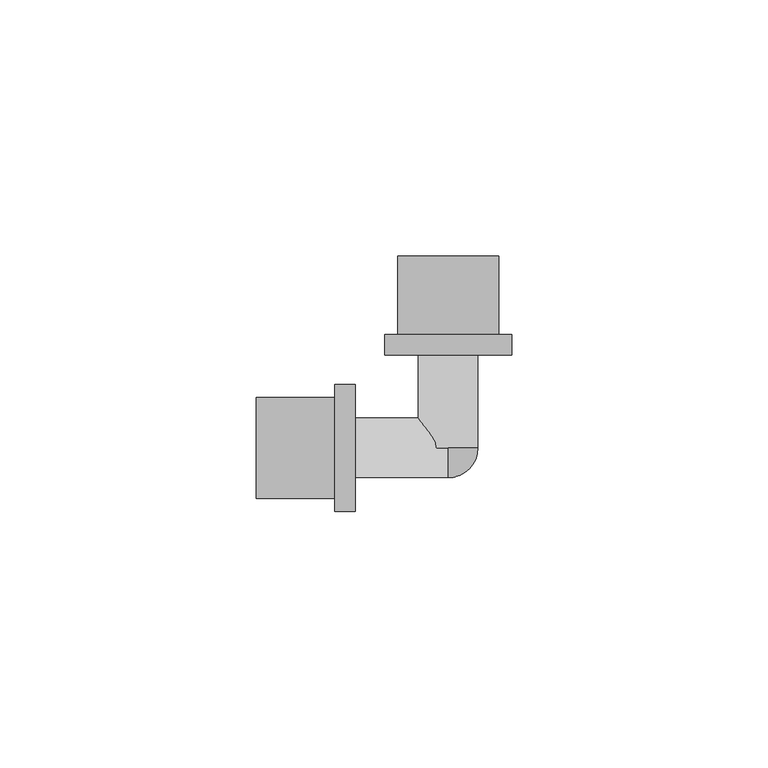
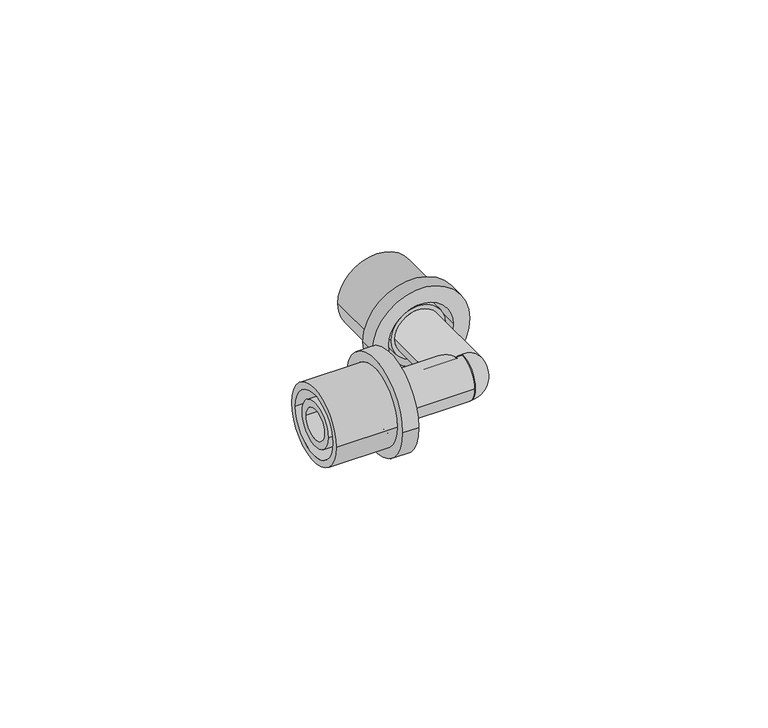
"""IFC4 building model written with IfcOpenShell, lengths in millimetres: pipe fitting geometry, FASTLOC_Corner EX+ : FSL C EX+ AT."""

from ifc_helpers import new_model, si_unit, point, frame, origin, place, context, project, spatial, polyline, circle_curve, ellipse_curve, trimmed, source, transform, mapped, element, save
from ifc_brep_helpers import plane_surface, cylinder_surface, revolved_surface, advanced_brep


def pipe_fitting_9dc6dfba(model_context):
    return source(origin(), model_context, "Body", "AdvancedBrep", [
        advanced_brep(
        [(-12.35, 22.1, 0.0), (12.35, 22.1, 0.0), (12.35, 18.1, 0.0), (-12.35, 18.1, 0.0), (-9.85, 37.4, 0.0), (9.85, 37.4, 0.0), (9.85, 22.1, 0.0), (-9.85, 22.1, 0.0), (-8.15, 18.1, 0.0), (8.15, 18.1, 0.0), (8.15, 37.4, 0.0), (-8.15, 37.4, 0.0)],
        [
            (0, 1, circle_curve(frame((0.0, 22.1, 0.0), z_axis=(0.0, -1.0, 0.0), x_axis=(1.0, 0.0, 0.0)), 12.35)),
            (1, 2),
            (2, 3, circle_curve(frame((0.0, 18.1, 0.0), z_axis=(0.0, 1.0, 0.0), x_axis=(1.0, 0.0, 0.0)), 12.35)),
            (3, 0),
            (4, 5, circle_curve(frame((0.0, 37.4, 0.0), z_axis=(0.0, -1.0, 0.0), x_axis=(1.0, 0.0, 0.0)), 9.85)),
            (5, 6),
            (6, 7, circle_curve(frame((0.0, 22.1, 0.0), z_axis=(0.0, 1.0, 0.0), x_axis=(1.0, 0.0, 0.0)), 9.85)),
            (7, 4),
            (8, 9, circle_curve(frame((0.0, 18.1, 0.0), z_axis=(0.0, -1.0, 0.0), x_axis=(1.0, 0.0, 0.0)), 8.15)),
            (9, 10),
            (10, 11, circle_curve(frame((0.0, 37.4, 0.0), z_axis=(0.0, 1.0, 0.0), x_axis=(1.0, 0.0, 0.0)), 8.15)),
            (11, 8),
            (1, 0, circle_curve(frame((0.0, 22.1, 0.0), z_axis=(0.0, -1.0, 0.0), x_axis=(-1.0, 0.0, 0.0)), 12.35)),
            (3, 2, circle_curve(frame((0.0, 18.1, 0.0), z_axis=(0.0, 1.0, 0.0), x_axis=(-1.0, 0.0, 0.0)), 12.35)),
            (6, 7, circle_curve(frame((0.0, 22.1, 0.0), z_axis=(0.0, -1.0, 0.0), x_axis=(-1.0, 0.0, 0.0)), 9.85)),
            (5, 4, circle_curve(frame((0.0, 37.4, 0.0), z_axis=(0.0, -1.0, 0.0), x_axis=(-1.0, 0.0, 0.0)), 9.85)),
            (10, 11, circle_curve(frame((0.0, 37.4, 0.0), z_axis=(0.0, -1.0, 0.0), x_axis=(-1.0, 0.0, 0.0)), 8.15)),
            (9, 8, circle_curve(frame((0.0, 18.1, 0.0), z_axis=(0.0, -1.0, 0.0), x_axis=(-1.0, 0.0, 0.0)), 8.15)),
        ],
        [
            cylinder_surface(frame((0.0, 18.1, 0.0), z_axis=(0.0, 1.0, 0.0), x_axis=(1.0, 0.0, 0.0)), 12.35),
            cylinder_surface(frame((0.0, 18.1, 0.0), z_axis=(0.0, 1.0, 0.0), x_axis=(1.0, 0.0, 0.0)), 9.85),
            revolved_surface(polyline([(8.15, 37.4, 0.0), (8.15, 18.1, 0.0)]), (0.0, 18.1, 0.0), (0.0, 1.0, 0.0)),
            cylinder_surface(frame((0.0, 18.1, 0.0), z_axis=(0.0, 1.0, 0.0), x_axis=(-1.0, 0.0, 0.0)), 12.35),
            plane_surface(frame((0.0, 22.1, 0.0), z_axis=(0.0, 1.0, 0.0), x_axis=(-1.0, 0.0, 0.0))),
            cylinder_surface(frame((0.0, 18.1, 0.0), z_axis=(0.0, 1.0, 0.0), x_axis=(-1.0, 0.0, 0.0)), 9.85),
            plane_surface(frame((0.0, 37.4, 0.0), z_axis=(0.0, 1.0, 0.0), x_axis=(-1.0, 0.0, 0.0))),
            revolved_surface(polyline([(-8.15, 37.4, 0.0), (-8.15, 18.1, 0.0)]), (0.0, 18.1, 0.0), (0.0, 1.0, 0.0)),
            plane_surface(frame((0.0, 18.1, 0.0), z_axis=(0.0, -1.0, 0.0), x_axis=(-1.0, 0.0, 0.0))),
        ],
        [
            (0, [[1, 2, 3, 4]]),
            (1, [[5, 6, 7, 8]]),
            (2, [[9, 10, 11, 12]]),
            (3, [[13, -4, 14, -2]]),
            (4, [[-13, -1], [15, -7]]),
            (5, [[16, -8, -15, -6]]),
            (6, [[-16, -5], [17, -11]]),
            (7, [[18, -12, -17, -10]]),
            (8, [[-14, -3], [-18, -9]]),
        ],
    ),
        advanced_brep(
        [(-22.1, -12.35, 0.0), (-22.1, 12.35, 0.0), (-18.1, 12.35, 0.0), (-18.1, -12.35, 0.0), (-37.4, -9.85, 0.0), (-37.4, 9.85, 0.0), (-22.1, 9.85, 0.0), (-22.1, -9.85, 0.0), (-18.1, -8.15, 0.0), (-18.1, 8.15, 0.0), (-37.4, 8.15, 0.0), (-37.4, -8.15, 0.0)],
        [
            (0, 1, circle_curve(frame((-22.1, 0.0, 0.0), z_axis=(1.0, 0.0, 0.0), x_axis=(0.0, 1.0, 0.0)), 12.35)),
            (1, 2),
            (2, 3, circle_curve(frame((-18.1, 0.0, 0.0), z_axis=(-1.0, 0.0, 0.0), x_axis=(0.0, 1.0, 0.0)), 12.35)),
            (3, 0),
            (4, 5, circle_curve(frame((-37.4, 0.0, 0.0), z_axis=(1.0, 0.0, 0.0), x_axis=(0.0, 1.0, 0.0)), 9.85)),
            (5, 6),
            (6, 7, circle_curve(frame((-22.1, 0.0, 0.0), z_axis=(-1.0, 0.0, 0.0), x_axis=(0.0, 1.0, 0.0)), 9.85)),
            (7, 4),
            (8, 9, circle_curve(frame((-18.1, 0.0, 0.0), z_axis=(1.0, 0.0, 0.0), x_axis=(0.0, 1.0, 0.0)), 8.15)),
            (9, 10),
            (10, 11, circle_curve(frame((-37.4, 0.0, 0.0), z_axis=(-1.0, 0.0, 0.0), x_axis=(0.0, 1.0, 0.0)), 8.15)),
            (11, 8),
            (1, 0, circle_curve(frame((-22.1, 0.0, 0.0), z_axis=(1.0, 0.0, 0.0), x_axis=(0.0, -1.0, 0.0)), 12.35)),
            (3, 2, circle_curve(frame((-18.1, 0.0, 0.0), z_axis=(-1.0, 0.0, 0.0), x_axis=(0.0, -1.0, 0.0)), 12.35)),
            (6, 7, circle_curve(frame((-22.1, 0.0, 0.0), z_axis=(1.0, 0.0, 0.0), x_axis=(0.0, -1.0, 0.0)), 9.85)),
            (5, 4, circle_curve(frame((-37.4, 0.0, 0.0), z_axis=(1.0, 0.0, 0.0), x_axis=(0.0, -1.0, 0.0)), 9.85)),
            (10, 11, circle_curve(frame((-37.4, 0.0, 0.0), z_axis=(1.0, 0.0, 0.0), x_axis=(0.0, -1.0, 0.0)), 8.15)),
            (9, 8, circle_curve(frame((-18.1, 0.0, 0.0), z_axis=(1.0, 0.0, 0.0), x_axis=(0.0, -1.0, 0.0)), 8.15)),
        ],
        [
            cylinder_surface(frame((-18.1, 0.0, 0.0), z_axis=(-1.0, 0.0, 0.0), x_axis=(0.0, 1.0, 0.0)), 12.35),
            cylinder_surface(frame((-18.1, 0.0, 0.0), z_axis=(-1.0, 0.0, 0.0), x_axis=(0.0, 1.0, 0.0)), 9.85),
            revolved_surface(polyline([(-37.4, 8.15, 0.0), (-18.1, 8.15, 0.0)]), (-18.1, 0.0, 0.0), (-1.0, 0.0, 0.0)),
            cylinder_surface(frame((-18.1, 0.0, 0.0), z_axis=(-1.0, 0.0, 0.0), x_axis=(0.0, -1.0, 0.0)), 12.35),
            plane_surface(frame((-22.1, 0.0, 0.0), z_axis=(-1.0, 0.0, 0.0), x_axis=(0.0, -1.0, 0.0))),
            cylinder_surface(frame((-18.1, 0.0, 0.0), z_axis=(-1.0, 0.0, 0.0), x_axis=(0.0, -1.0, 0.0)), 9.85),
            plane_surface(frame((-37.4, 0.0, 0.0), z_axis=(-1.0, 0.0, 0.0), x_axis=(0.0, -1.0, 0.0))),
            revolved_surface(polyline([(-37.4, -8.15, 0.0), (-18.1, -8.15, 0.0)]), (-18.1, 0.0, 0.0), (-1.0, 0.0, 0.0)),
            plane_surface(frame((-18.1, 0.0, 0.0), z_axis=(1.0, 0.0, 0.0), x_axis=(0.0, -1.0, 0.0))),
        ],
        [
            (0, [[1, 2, 3, 4]]),
            (1, [[5, 6, 7, 8]]),
            (2, [[9, 10, 11, 12]]),
            (3, [[13, -4, 14, -2]]),
            (4, [[-13, -1], [15, -7]]),
            (5, [[16, -8, -15, -6]]),
            (6, [[-16, -5], [17, -11]]),
            (7, [[18, -12, -17, -10]]),
            (8, [[-14, -3], [-18, -9]]),
        ],
    ),
        advanced_brep(
        [(0.0, 0.0, 5.8), (0.0, 0.0, 0.0), (0.0, -5.8, 0.0), (0.0, 0.0, -5.8)],
        [
            (0, 1),
            (1, 2),
            (2, 0, circle_curve(frame((0.0, 0.0, 0.0), z_axis=(-1.0, 0.0, 0.0), x_axis=(0.0, 0.0, 1.0)), 5.8)),
            (3, 2, circle_curve(frame((0.0, 0.0, 0.0), z_axis=(-1.0, 0.0, 0.0), x_axis=(0.0, 0.0, -1.0)), 5.8)),
            (1, 3),
            (0, 3, circle_curve(frame((0.0, 0.0, 0.0), z_axis=(0.0, 1.0, 0.0), x_axis=(0.0, 0.0, 1.0)), 5.8)),
        ],
        [
            plane_surface(frame((0.0, 0.0, 0.0), z_axis=(-1.0, 0.0, 0.0), x_axis=(0.0, 0.0, 1.0))),
            plane_surface(frame((0.0, 0.0, 0.0), z_axis=(-1.0, 0.0, 0.0), x_axis=(0.0, 0.0, -1.0))),
            plane_surface(frame((0.0, 0.0, 0.0), z_axis=(0.0, 1.0, 0.0), x_axis=(0.0, 0.0, 1.0))),
            revolved_surface(trimmed(ellipse_curve(frame((0.0, 0.0, 0.0), z_axis=(-1.0, 0.0, 0.0), x_axis=(0.0, 0.0, 1.0)), 5.8, 5.8), [point((0.0, -5.8, 0.0))], [point((0.0, 0.0, 5.8))], True, "CARTESIAN"), (0.0, 0.0, 0.0), (0.0, 1.0, 0.0)),
        ],
        [
            (0, [[1, 2, 3]]),
            (1, [[4, -2, 5]]),
            (2, [[-1, 6, -5]]),
            (3, [[-6, -3, -4]]),
        ],
    ),
        advanced_brep(
        [(3.95, 37.1, 0.0), (-3.95, 37.1, 0.0), (-3.95, 0.0, 0.0), (3.95, 0.0, 0.0), (5.8, 22.1, 0.0), (-5.8, 22.1, 0.0), (-5.8, 37.1, 0.0), (5.8, 37.1, 0.0), (6.9, 19.4, 0.0), (-6.9, 19.4, 0.0), (-6.9, 22.1, 0.0), (6.9, 22.1, 0.0), (5.8, 0.0, 0.0), (-5.8, 0.0, 0.0), (-5.8, 19.4, 0.0), (5.8, 19.4, 0.0)],
        [
            (0, 1, circle_curve(frame((0.0, 37.1, 0.0), z_axis=(0.0, 1.0, 0.0), x_axis=(-1.0, 0.0, 0.0)), 3.95)),
            (1, 2),
            (2, 3, circle_curve(frame((0.0, 0.0, 0.0), z_axis=(0.0, -1.0, 0.0), x_axis=(-1.0, 0.0, 0.0)), 3.95)),
            (3, 0),
            (4, 5, circle_curve(frame((0.0, 22.1, 0.0), z_axis=(0.0, 1.0, 0.0), x_axis=(-1.0, 0.0, 0.0)), 5.8)),
            (5, 6),
            (6, 7, circle_curve(frame((0.0, 37.1, 0.0), z_axis=(0.0, -1.0, 0.0), x_axis=(-1.0, 0.0, 0.0)), 5.8)),
            (7, 4),
            (8, 9, circle_curve(frame((0.0, 19.4, 0.0), z_axis=(0.0, 1.0, 0.0), x_axis=(-1.0, 0.0, 0.0)), 6.9)),
            (9, 10),
            (10, 11, circle_curve(frame((0.0, 22.1, 0.0), z_axis=(0.0, -1.0, 0.0), x_axis=(-1.0, 0.0, 0.0)), 6.9)),
            (11, 8),
            (12, 13, circle_curve(frame((0.0, 0.0, 0.0), z_axis=(0.0, 1.0, 0.0), x_axis=(-1.0, 0.0, 0.0)), 5.8)),
            (13, 14),
            (14, 15, circle_curve(frame((0.0, 19.4, 0.0), z_axis=(0.0, -1.0, 0.0), x_axis=(-1.0, 0.0, 0.0)), 5.8)),
            (15, 12),
            (1, 0, circle_curve(frame((0.0, 37.1, 0.0), z_axis=(0.0, 1.0, 0.0), x_axis=(1.0, 0.0, 0.0)), 3.95)),
            (3, 2, circle_curve(frame((0.0, 0.0, 0.0), z_axis=(0.0, -1.0, 0.0), x_axis=(1.0, 0.0, 0.0)), 3.95)),
            (6, 7, circle_curve(frame((0.0, 37.1, 0.0), z_axis=(0.0, 1.0, 0.0), x_axis=(1.0, 0.0, 0.0)), 5.8)),
            (5, 4, circle_curve(frame((0.0, 22.1, 0.0), z_axis=(0.0, 1.0, 0.0), x_axis=(1.0, 0.0, 0.0)), 5.8)),
            (10, 11, circle_curve(frame((0.0, 22.1, 0.0), z_axis=(0.0, 1.0, 0.0), x_axis=(1.0, 0.0, 0.0)), 6.9)),
            (9, 8, circle_curve(frame((0.0, 19.4, 0.0), z_axis=(0.0, 1.0, 0.0), x_axis=(1.0, 0.0, 0.0)), 6.9)),
            (14, 15, circle_curve(frame((0.0, 19.4, 0.0), z_axis=(0.0, 1.0, 0.0), x_axis=(1.0, 0.0, 0.0)), 5.8)),
            (13, 12, circle_curve(frame((0.0, 0.0, 0.0), z_axis=(0.0, 1.0, 0.0), x_axis=(1.0, 0.0, 0.0)), 5.8)),
        ],
        [
            revolved_surface(polyline([(-3.95, 0.0, 0.0), (-3.95, 37.1, 0.0)]), (0.0, 0.0, 0.0), (0.0, -1.0, 0.0)),
            cylinder_surface(frame((0.0, 0.0, 0.0), z_axis=(0.0, -1.0, 0.0), x_axis=(-1.0, 0.0, 0.0)), 5.8),
            cylinder_surface(frame((0.0, 0.0, 0.0), z_axis=(0.0, -1.0, 0.0), x_axis=(-1.0, 0.0, 0.0)), 6.9),
            revolved_surface(polyline([(3.95, 0.0, 0.0), (3.95, 37.1, 0.0)]), (0.0, 0.0, 0.0), (0.0, -1.0, 0.0)),
            plane_surface(frame((0.0, 37.1, 0.0), z_axis=(0.0, 1.0, 0.0), x_axis=(1.0, 0.0, 0.0))),
            cylinder_surface(frame((0.0, 0.0, 0.0), z_axis=(0.0, -1.0, 0.0), x_axis=(1.0, 0.0, 0.0)), 5.8),
            plane_surface(frame((0.0, 22.1, 0.0), z_axis=(0.0, 1.0, 0.0), x_axis=(1.0, 0.0, 0.0))),
            cylinder_surface(frame((0.0, 0.0, 0.0), z_axis=(0.0, -1.0, 0.0), x_axis=(1.0, 0.0, 0.0)), 6.9),
            plane_surface(frame((0.0, 19.4, 0.0), z_axis=(0.0, -1.0, 0.0), x_axis=(1.0, 0.0, 0.0))),
            plane_surface(frame((0.0, 0.0, 0.0), z_axis=(0.0, -1.0, 0.0), x_axis=(1.0, 0.0, 0.0))),
        ],
        [
            (0, [[1, 2, 3, 4]]),
            (1, [[5, 6, 7, 8]]),
            (2, [[9, 10, 11, 12]]),
            (1, [[13, 14, 15, 16]]),
            (3, [[17, -4, 18, -2]]),
            (4, [[19, -7], [-17, -1]]),
            (5, [[20, -8, -19, -6]]),
            (6, [[21, -11], [-20, -5]]),
            (7, [[22, -12, -21, -10]]),
            (8, [[-22, -9], [23, -15]]),
            (5, [[24, -16, -23, -14]]),
            (9, [[-24, -13], [-18, -3]]),
        ],
    ),
        advanced_brep(
        [(0.0, 5.8, 0.0), (0.0, -5.8, 0.0), (-19.4, -5.8, 0.0), (-19.4, 5.8, 0.0), (-19.4, 6.9, 0.0), (-19.4, -6.9, 0.0), (-22.1, -6.9, 0.0), (-22.1, 6.9, 0.0), (-22.1, 5.8, 0.0), (-22.1, -5.8, 0.0), (-37.1, -5.8, 0.0), (-37.1, 5.8, 0.0), (-37.1, 3.95, 0.0), (-37.1, -3.95, 0.0), (0.0, -3.95, 0.0), (0.0, 3.95, 0.0)],
        [
            (0, 1, circle_curve(frame((0.0, 0.0, 0.0), z_axis=(-1.0, 0.0, 0.0), x_axis=(0.0, -1.0, 0.0)), 5.8)),
            (1, 2),
            (2, 3, circle_curve(frame((-19.4, 0.0, 0.0), z_axis=(1.0, 0.0, 0.0), x_axis=(0.0, -1.0, 0.0)), 5.8)),
            (3, 0),
            (4, 5, circle_curve(frame((-19.4, 0.0, 0.0), z_axis=(-1.0, 0.0, 0.0), x_axis=(0.0, -1.0, 0.0)), 6.9)),
            (5, 6),
            (6, 7, circle_curve(frame((-22.1, 0.0, 0.0), z_axis=(1.0, 0.0, 0.0), x_axis=(0.0, -1.0, 0.0)), 6.9)),
            (7, 4),
            (8, 9, circle_curve(frame((-22.1, 0.0, 0.0), z_axis=(-1.0, 0.0, 0.0), x_axis=(0.0, -1.0, 0.0)), 5.8)),
            (9, 10),
            (10, 11, circle_curve(frame((-37.1, 0.0, 0.0), z_axis=(1.0, 0.0, 0.0), x_axis=(0.0, -1.0, 0.0)), 5.8)),
            (11, 8),
            (12, 13, circle_curve(frame((-37.1, 0.0, 0.0), z_axis=(-1.0, 0.0, 0.0), x_axis=(0.0, -1.0, 0.0)), 3.95)),
            (13, 14),
            (14, 15, circle_curve(frame((0.0, 0.0, 0.0), z_axis=(1.0, 0.0, 0.0), x_axis=(0.0, -1.0, 0.0)), 3.95)),
            (15, 12),
            (0, 1, circle_curve(frame((0.0, 0.0, 0.0), z_axis=(1.0, 0.0, 0.0), x_axis=(0.0, 1.0, 0.0)), 5.8)),
            (14, 15, circle_curve(frame((0.0, 0.0, 0.0), z_axis=(-1.0, 0.0, 0.0), x_axis=(0.0, 1.0, 0.0)), 3.95)),
            (3, 2, circle_curve(frame((-19.4, 0.0, 0.0), z_axis=(1.0, 0.0, 0.0), x_axis=(0.0, 1.0, 0.0)), 5.8)),
            (4, 5, circle_curve(frame((-19.4, 0.0, 0.0), z_axis=(1.0, 0.0, 0.0), x_axis=(0.0, 1.0, 0.0)), 6.9)),
            (7, 6, circle_curve(frame((-22.1, 0.0, 0.0), z_axis=(1.0, 0.0, 0.0), x_axis=(0.0, 1.0, 0.0)), 6.9)),
            (8, 9, circle_curve(frame((-22.1, 0.0, 0.0), z_axis=(1.0, 0.0, 0.0), x_axis=(0.0, 1.0, 0.0)), 5.8)),
            (11, 10, circle_curve(frame((-37.1, 0.0, 0.0), z_axis=(1.0, 0.0, 0.0), x_axis=(0.0, 1.0, 0.0)), 5.8)),
            (12, 13, circle_curve(frame((-37.1, 0.0, 0.0), z_axis=(1.0, 0.0, 0.0), x_axis=(0.0, 1.0, 0.0)), 3.95)),
        ],
        [
            cylinder_surface(frame((0.0, 0.0, 0.0), z_axis=(1.0, 0.0, 0.0), x_axis=(0.0, -1.0, 0.0)), 5.8),
            cylinder_surface(frame((0.0, 0.0, 0.0), z_axis=(1.0, 0.0, 0.0), x_axis=(0.0, -1.0, 0.0)), 6.9),
            revolved_surface(polyline([(0.0, -3.95, 0.0), (-37.1, -3.95, 0.0)]), (0.0, 0.0, 0.0), (1.0, 0.0, 0.0)),
            plane_surface(frame((0.0, 0.0, 0.0), z_axis=(1.0, 0.0, 0.0), x_axis=(0.0, 1.0, 0.0))),
            cylinder_surface(frame((0.0, 0.0, 0.0), z_axis=(1.0, 0.0, 0.0), x_axis=(0.0, 1.0, 0.0)), 5.8),
            plane_surface(frame((-19.4, 0.0, 0.0), z_axis=(1.0, 0.0, 0.0), x_axis=(0.0, 1.0, 0.0))),
            cylinder_surface(frame((0.0, 0.0, 0.0), z_axis=(1.0, 0.0, 0.0), x_axis=(0.0, 1.0, 0.0)), 6.9),
            plane_surface(frame((-22.1, 0.0, 0.0), z_axis=(-1.0, 0.0, 0.0), x_axis=(0.0, 1.0, 0.0))),
            plane_surface(frame((-37.1, 0.0, 0.0), z_axis=(-1.0, 0.0, 0.0), x_axis=(0.0, 1.0, 0.0))),
            revolved_surface(polyline([(0.0, 3.95, 0.0), (-37.1, 3.95, 0.0)]), (0.0, 0.0, 0.0), (1.0, 0.0, 0.0)),
        ],
        [
            (0, [[1, 2, 3, 4]]),
            (1, [[5, 6, 7, 8]]),
            (0, [[9, 10, 11, 12]]),
            (2, [[13, 14, 15, 16]]),
            (3, [[17, -1], [18, -15]]),
            (4, [[-17, -4, 19, -2]]),
            (5, [[20, -5], [-19, -3]]),
            (6, [[-20, -8, 21, -6]]),
            (7, [[-21, -7], [22, -9]]),
            (4, [[-22, -12, 23, -10]]),
            (8, [[-23, -11], [24, -13]]),
            (9, [[-24, -16, -18, -14]]),
        ],
    ),
    ])


if __name__ == "__main__":
    model = new_model("IFC4")
    model_context = context("Model", 3, world=origin())
    ifc_project = project(units=[si_unit("LENGTHUNIT", "METRE", prefix="MILLI")], contexts=[model_context])
    site = spatial("IfcSite", under=ifc_project)
    building = spatial("IfcBuilding", under=site)
    placement = place(None, origin())
    pipe_fitting_shape = pipe_fitting_9dc6dfba(model_context)
    element("IfcPipeFitting", 1, ObjectType="FASTLOC_Corner EX+ : FSL C EX+ AT", at=placement, inside=building, context=model_context, shape_type="MappedRepresentation", body=[
        mapped(pipe_fitting_shape, transform((0.0, 0.0, 0.0), x_axis=(1.0, 0.0, 0.0), y_axis=(0.0, 1.0, 0.0), z_axis=(0.0, 0.0, 1.0))),
    ])
    save(model, "model.ifc")
